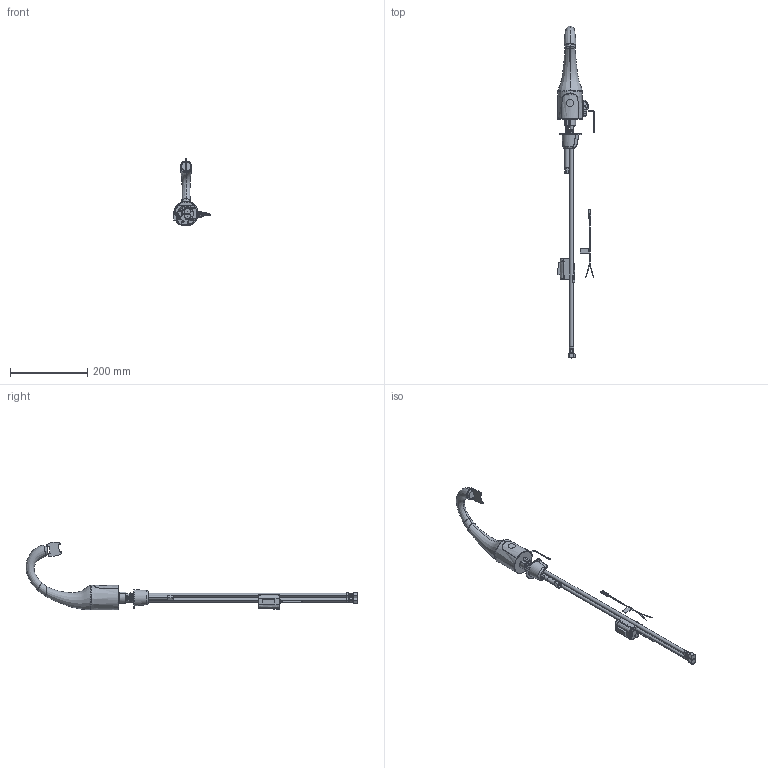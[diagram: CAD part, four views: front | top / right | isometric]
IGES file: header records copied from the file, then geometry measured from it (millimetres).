
Start section:  PTC IGES file: 116-669-ab-1t_REV062770.igs
Global section: file name: 116-669-ab-1t_REV062770.igs; native system: Creo Parametric by PTC Inc.; preprocessor: 2021184; author: rodjo; organization: Unknown; date: 20220627.090940; units: inch
Bounding box: 94.21 x 859.7 x 175.77 mm (x, y, z)
Surface area: 141090.7 mm2 (no closed solid volume)
Topology: 0 solids, 0 shells, 826 faces, 7679 edges, 10703 vertices
Faces by surface type: revolution 478, bspline 348
